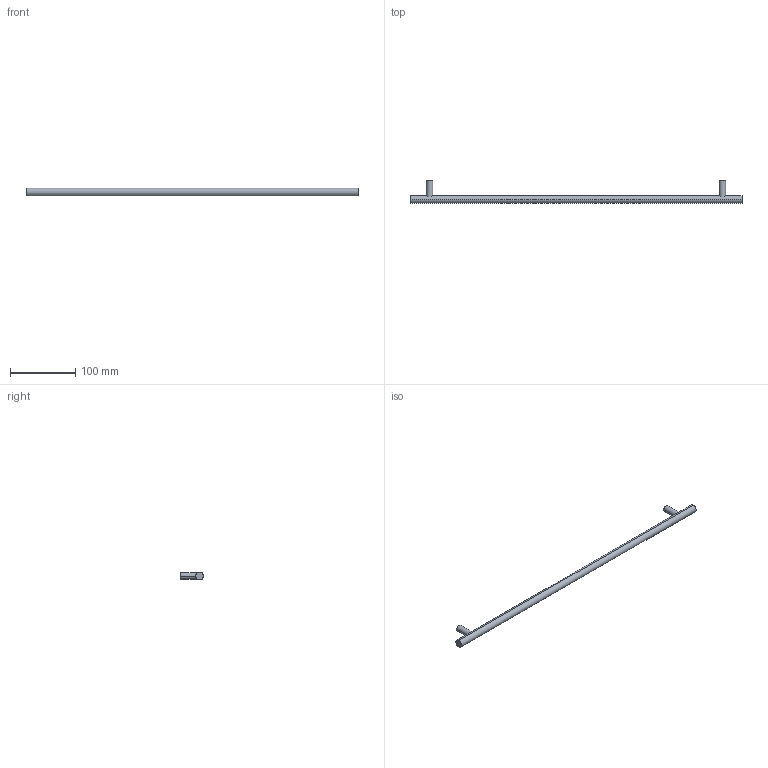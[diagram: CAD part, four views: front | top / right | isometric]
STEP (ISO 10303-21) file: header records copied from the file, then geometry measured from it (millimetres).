
FILE_DESCRIPTION( ( '' ), '1' );
FILE_NAME( 'D:/1.AUTOCAD EXPORT/Group 10/sheet_10_1/9071026.stp', '2013-10-21T10:23:57', ( '' ), ( '' ), ' ', ' ', ' ' );
FILE_SCHEMA( ( 'automotive_design' ) );
Length unit declared in the file: millimetre
Products named in the file (1): 1
Bounding box: 508 x 35 x 12 mm (x, y, z)
Volume: 60855.9 mm3; surface area: 21182.7 mm2
Topology: 1 solids, 1 shells, 16 faces, 32 edges, 22 vertices
Faces by surface type: cylinder 10, plane 6
Entity records: 972 total; most frequent: CARTESIAN_POINT 205, DIRECTION 76, STYLED_ITEM 71, PRESENTATION_STYLE_ASSIGNMENT 71, COLOUR_RGB 71, ORIENTED_EDGE 64, AXIS2_PLACEMENT_3D 33, EDGE_CURVE 32
